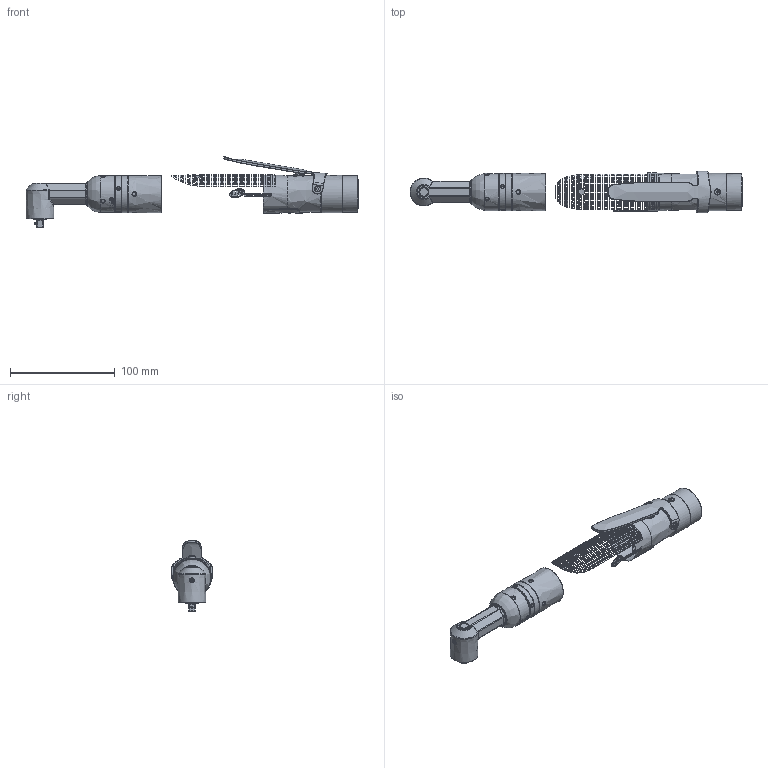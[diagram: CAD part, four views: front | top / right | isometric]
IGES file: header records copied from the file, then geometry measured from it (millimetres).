
Global section: file name: G:\Eng_Shared\PF\SURF MODELS\QE-QM\QE\QE2\Angle\16610347_A.igs; native system: NX V4.0; preprocessor: UGS NX IGES V4.0; date: 20090224.100744; units: millimetre
Bounding box: 317.64 x 39.38 x 68.16 mm (x, y, z)
Surface area: 41668.4 mm2 (no closed solid volume)
Topology: 0 solids, 0 shells, 1127 faces, 7234 edges, 7015 vertices
Faces by surface type: bspline 1127
